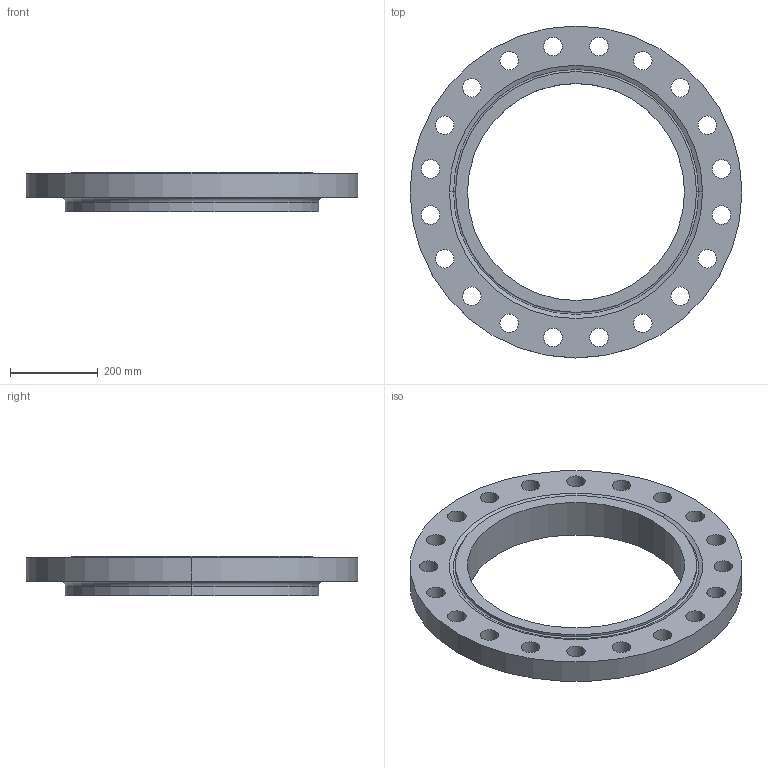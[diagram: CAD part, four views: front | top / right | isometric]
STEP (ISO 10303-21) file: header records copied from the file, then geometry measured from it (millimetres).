
FILE_DESCRIPTION (( 'STEP AP214' ), '1' );
FILE_NAME ('PN40 DN500 Type 13 - Type H Face.STEP', '2018-12-29T01:20:06', ( '' ), ( '' ), 'SwSTEP 2.0', 'SolidWorks 2019', '' );
FILE_SCHEMA (( 'AUTOMOTIVE_DESIGN' ));
Length unit declared in the file: millimetre
Products named in the file (1): PN40 DN500 Type 13 - Type H Face
Bounding box: 755 x 755 x 90 mm (x, y, z)
Volume: 14751221.7 mm3; surface area: 931501.5 mm2
Topology: 1 solids, 1 shells, 58 faces, 156 edges, 102 vertices
Faces by surface type: cylinder 48, torus 4, plane 4, cone 2
Entity records: 1996 total; most frequent: DIRECTION 380, CARTESIAN_POINT 317, ORIENTED_EDGE 312, AXIS2_PLACEMENT_3D 165, EDGE_CURVE 156, CIRCLE 106, EDGE_LOOP 102, VERTEX_POINT 102
